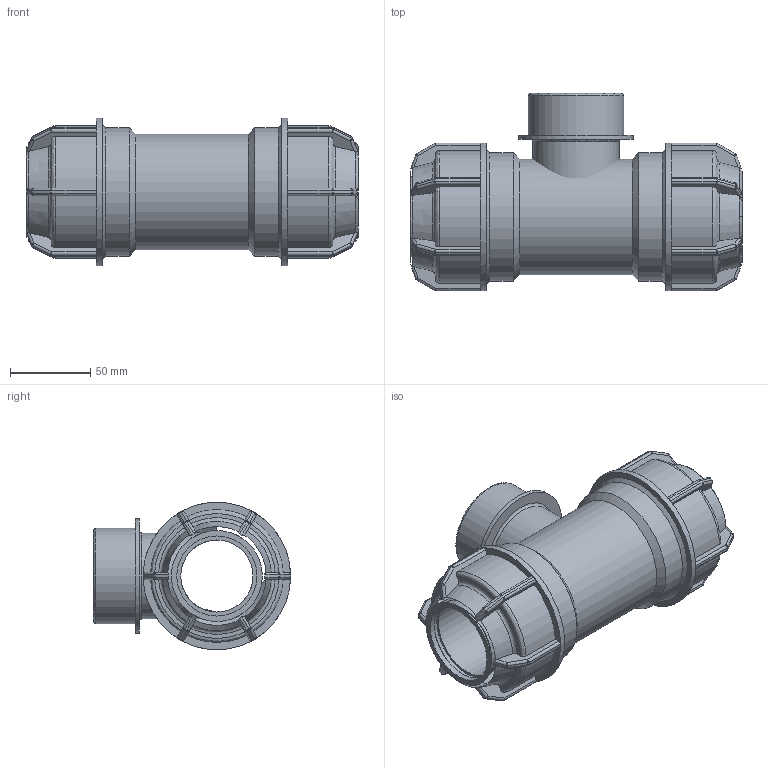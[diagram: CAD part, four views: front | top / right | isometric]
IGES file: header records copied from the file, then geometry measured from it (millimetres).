
Global section: file name: 148400050020.ipt; native system: Autodesk Inventor 2015; preprocessor: unknown; author: KIM; date: 20180409.131237; units: millimetre
Bounding box: 207 x 123 x 92 mm (x, y, z)
Volume: 612741.3 mm3; surface area: 121595.1 mm2
Topology: 2 solids, 2 shells, 416 faces, 1000 edges, 586 vertices
Faces by surface type: plane 198, cylinder 116, sphere 48, revolution 38, cone 16
Full cylindrical faces by diameter (mm): 53.653 x1, 59.614 x1, 71.537 x1, 72 x1, 80 x2, 92 x2
